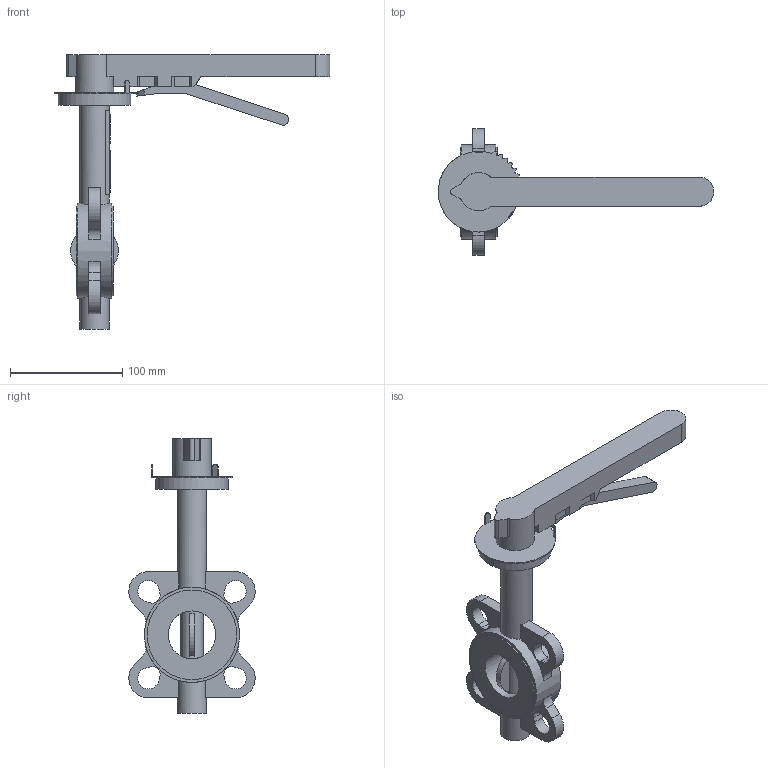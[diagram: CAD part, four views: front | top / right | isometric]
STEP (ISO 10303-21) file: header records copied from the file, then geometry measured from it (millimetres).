
FILE_DESCRIPTION(('STEP AP203'), '1');
FILE_NAME('Çàòâîð 017W.Z(÷óãóí) DN40 PN10_16 ðóêîÿòêà', '', ('UNSPECIFIED'), ('UNSPECIFIED'), 'ASCON STEP Converter 1.6', 'ASCON Math Kernel', '');
FILE_SCHEMA(('CONFIG_CONTROL_DESIGN'));
Length unit declared in the file: millimetre
Bounding box: 245.97 x 112.73 x 245 mm (x, y, z)
Volume: 164924.6 mm3; surface area: 92984.3 mm2
Topology: 1 solids, 2 shells, 702 faces, 2066 edges, 1332 vertices
Faces by surface type: cylinder 460, plane 242
Full cylindrical faces by diameter (mm): 8 x4, 12.6 x1, 20 x1, 26 x2, 34 x1, 35 x1, 42.6 x1, 65 x1, 80 x2, 85 x1
Entity records: 30151 total; most frequent: CARTESIAN_POINT 4933, DIRECTION 4413, ORIENTED_EDGE 4041, EDGE_CURVE 2052, AXIS2_PLACEMENT_3D 1681, VERTEX_POINT 1332, LINE 1051, VECTOR 1051
